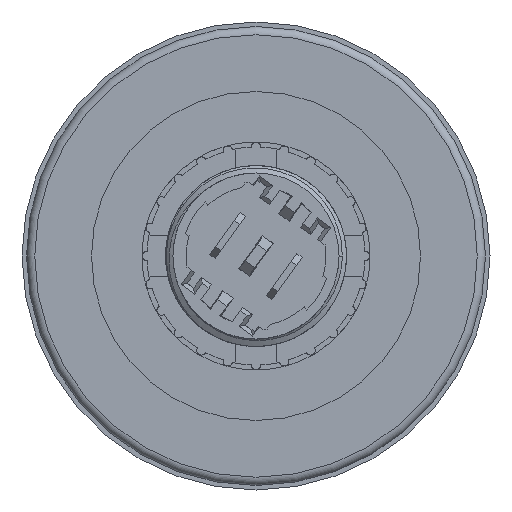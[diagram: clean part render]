
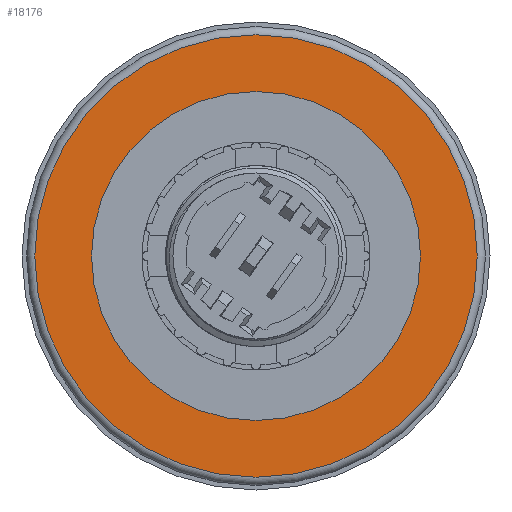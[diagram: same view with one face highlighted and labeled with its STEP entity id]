
A CAD part, front view. The second image highlights one B-rep face of the part: STEP entity #18176.
In plain terms, the highlighted planar face has unit normal (0, -1, 0).
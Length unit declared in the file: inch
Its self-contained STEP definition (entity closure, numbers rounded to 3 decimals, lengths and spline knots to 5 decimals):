
#91=FACE_BOUND('',#3239,.T.);
#622=CIRCLE('',#18751,1.05906);
#630=CIRCLE('',#18796,0.7874);
#2215=FACE_OUTER_BOUND('',#3238,.T.);
#3238=EDGE_LOOP('',(#14713));
#3239=EDGE_LOOP('',(#14714));
#6921=VERTEX_POINT('',#29413);
#7018=VERTEX_POINT('',#30485);
#8679=EDGE_CURVE('',#6921,#6921,#622,.T.);
#8802=EDGE_CURVE('',#7018,#7018,#630,.T.);
#14713=ORIENTED_EDGE('',*,*,#8679,.F.);
#14714=ORIENTED_EDGE('',*,*,#8802,.T.);
#16333=PLANE('',#19917);
#18176=ADVANCED_FACE('',(#2215,#91),#16333,.T.);
#18751=AXIS2_PLACEMENT_3D('',#29414,#21136,#21137);
#18796=AXIS2_PLACEMENT_3D('',#30487,#21296,#21297);
#19917=AXIS2_PLACEMENT_3D('',#35209,#24251,#24252);
#21136=DIRECTION('center_axis',(0.,1.,0.));
#21137=DIRECTION('ref_axis',(0.811,0.,-0.586));
#21296=DIRECTION('center_axis',(0.,1.,0.));
#21297=DIRECTION('ref_axis',(0.,0.,-1.));
#24251=DIRECTION('center_axis',(0.,-1.,0.));
#24252=DIRECTION('ref_axis',(0.,0.,-1.));
#29413=CARTESIAN_POINT('',(0.,-0.71654,1.05906));
#29414=CARTESIAN_POINT('Origin',(0.,-0.71654,
0.));
#30485=CARTESIAN_POINT('',(0.,-0.71654,0.7874));
#30487=CARTESIAN_POINT('Origin',(0.,-0.71654,
0.));
#35209=CARTESIAN_POINT('Origin',(-0.43685,-0.71654,-0.60479));
